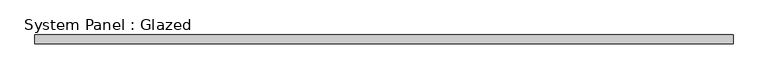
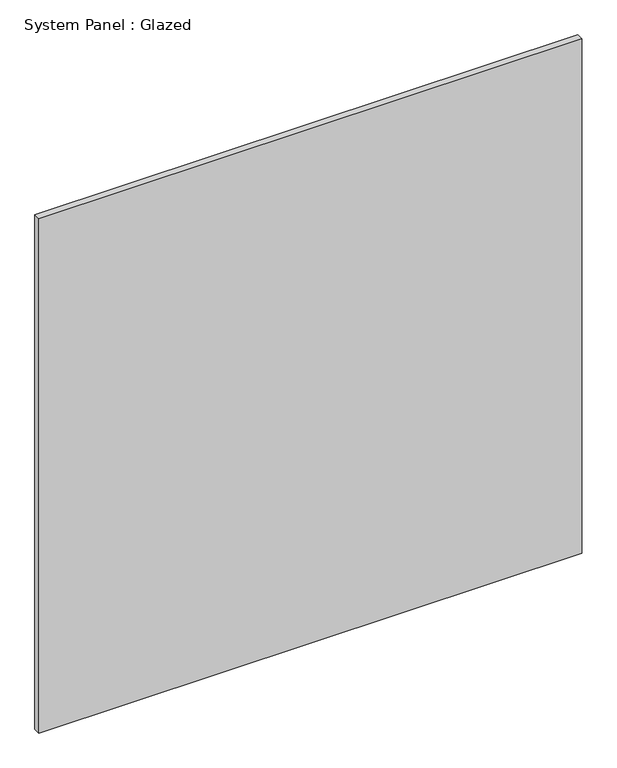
"""IFC4 building model written with IfcOpenShell, lengths in millimetres: plate geometry, System Panel : Glazed."""

from ifc_helpers import new_model, si_unit, origin, origin_with_axes, place, context, project, spatial, polyline, outline, extrude, source, transform, mapped, element, save


def system_panel_glazed_691c7578(model_context):
    return source(origin(), model_context, "Body", "SweptSolid", [
        extrude(outline(polyline([(989.2021654, 19.05), (-989.2021654, 19.05), (-989.2021654, 44.45), (989.2021654, 44.45), (989.2021654, 19.05)])), origin_with_axes(), (0.0, 0.0, 1.0), 1981.2),
    ])


if __name__ == "__main__":
    model = new_model("IFC4")
    model_context = context("Model", 3, world=origin())
    ifc_project = project(units=[si_unit("LENGTHUNIT", "METRE", prefix="MILLI")], contexts=[model_context])
    site = spatial("IfcSite", under=ifc_project)
    building = spatial("IfcBuilding", under=site)
    placement = place(None, origin())
    system_panel_glazed_shape = system_panel_glazed_691c7578(model_context)
    element("IfcPlate", 1, ObjectType="System Panel : Glazed", at=placement, inside=building, context=model_context, shape_type="MappedRepresentation", body=[
        mapped(system_panel_glazed_shape, transform((0.0, 0.0, 0.0), x_axis=(1.0, 0.0, 0.0), y_axis=(0.0, 1.0, 0.0), z_axis=(0.0, 0.0, 1.0))),
    ])
    save(model, "model.ifc")
